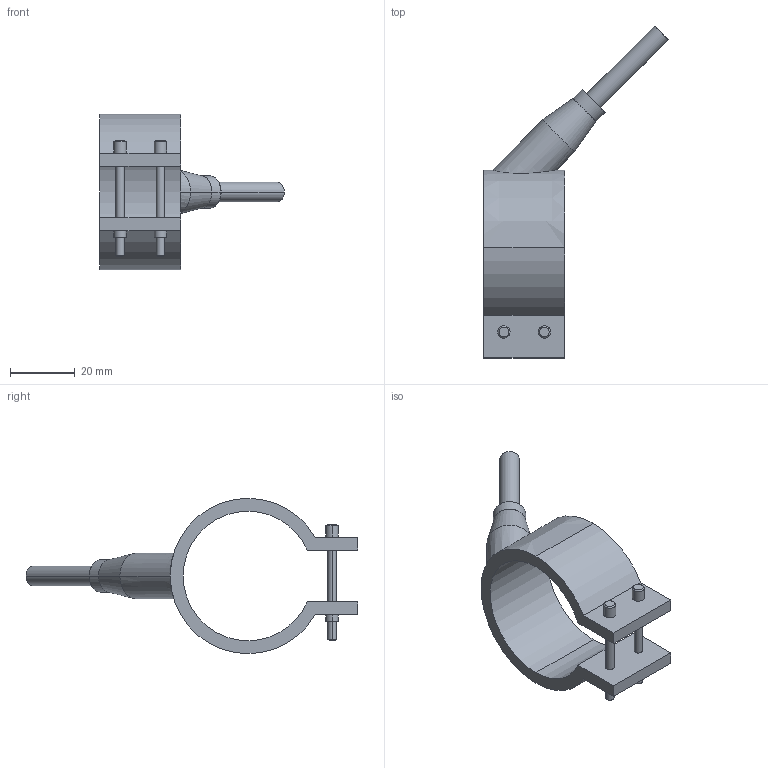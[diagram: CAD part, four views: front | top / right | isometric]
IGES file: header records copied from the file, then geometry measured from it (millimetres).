
Start section: START RECORD GO HERE.
Global section: file name: 29040025.igs; native system: DASSAULT SYSTEMES CATIA V5 R20 - www.3ds.com; preprocessor: CATIA Version 5 Release 20 ; author: Utente; organization: NB04-ASUS; date: 20210327.095825; units: millimetre
Bounding box: 57.05 x 102.55 x 48 mm (x, y, z)
Surface area: 10835.3 mm2 (no closed solid volume)
Topology: 0 solids, 0 shells, 54 faces, 248 edges, 248 vertices
Faces by surface type: revolution 38, plane 16
